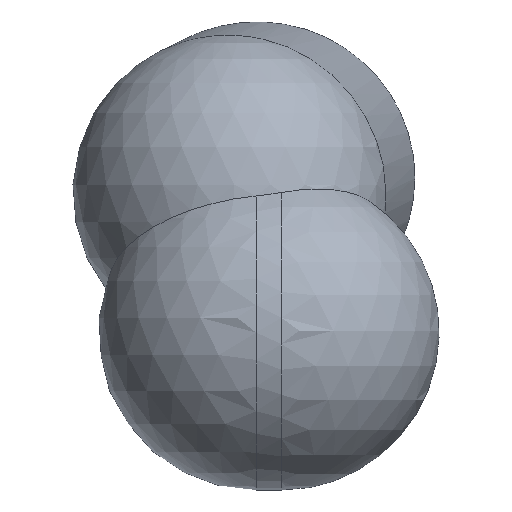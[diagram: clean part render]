
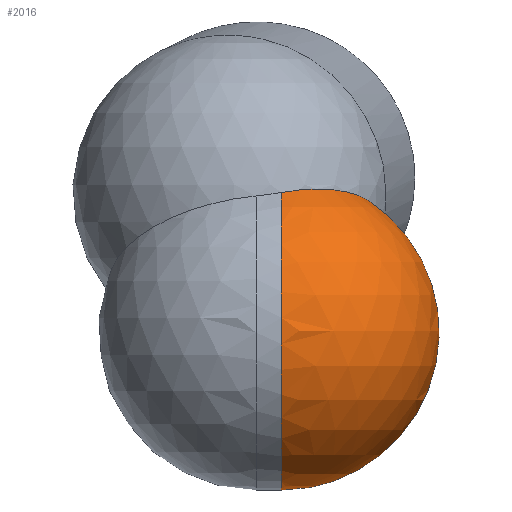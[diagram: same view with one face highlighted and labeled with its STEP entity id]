
A CAD part, front view. The second image highlights one B-rep face of the part: STEP entity #2016.
In plain terms, the highlighted spherical face has radius 62 mm.
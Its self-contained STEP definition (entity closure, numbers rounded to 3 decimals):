
#129 = SPHERICAL_SURFACE('',#130,62.);
#130 = AXIS2_PLACEMENT_3D('',#131,#132,#133);
#131 = CARTESIAN_POINT('',(-170.,30.,55.));
#132 = DIRECTION('',(0.,0.,1.));
#133 = DIRECTION('',(1.,0.,-0.));
#266 = SPHERICAL_SURFACE('',#267,62.);
#267 = AXIS2_PLACEMENT_3D('',#268,#269,#270);
#268 = CARTESIAN_POINT('',(-149.9,0.,0.));
#269 = DIRECTION('',(0.,0.,1.));
#270 = DIRECTION('',(1.,0.,-0.));
#1015 = VERTEX_POINT('',#1016);
#1016 = CARTESIAN_POINT('',(-149.9,-28.651,
    54.983));
#1036 = CYLINDRICAL_SURFACE('',#1037,62.);
#1037 = AXIS2_PLACEMENT_3D('',#1038,#1039,#1040);
#1038 = CARTESIAN_POINT('',(-149.9,0.,0.));
#1039 = DIRECTION('',(-1.,0.,0.));
#1040 = DIRECTION('',(0.,0.,-1.));
#1051 = EDGE_CURVE('',#1052,#1015,#1054,.T.);
#1052 = VERTEX_POINT('',#1053);
#1053 = CARTESIAN_POINT('',(-115.836,0.,
    51.804));
#1054 = SURFACE_CURVE('',#1055,(#1060,#1078),.PCURVE_S1.);
#1055 = CIRCLE('',#1056,52.552);
#1056 = AXIS2_PLACEMENT_3D('',#1057,#1058,#1059);
#1057 = CARTESIAN_POINT('',(-159.95,15.,27.5));
#1058 = DIRECTION('',(0.305,-0.456,-0.836));
#1059 = DIRECTION('',(0.,0.878,-0.479)
  );
#1060 = PCURVE('',#129,#1061);
#1061 = DEFINITIONAL_REPRESENTATION('',(#1062),#1077);
#1062 = B_SPLINE_CURVE_WITH_KNOTS('',7,(#1063,#1064,#1065,#1066,#1067,
    #1068,#1069,#1070,#1071,#1072,#1073,#1074,#1075,#1076),
  .UNSPECIFIED.,.F.,.F.,(8,6,8),(2.062,2.501,
    2.939),.UNSPECIFIED.);
#1063 = CARTESIAN_POINT('',(5.777,-0.052));
#1064 = CARTESIAN_POINT('',(5.727,-0.036));
#1065 = CARTESIAN_POINT('',(5.675,-0.022));
#1066 = CARTESIAN_POINT('',(5.624,-0.01));
#1067 = CARTESIAN_POINT('',(5.571,0.));
#1068 = CARTESIAN_POINT('',(5.519,0.008));
#1069 = CARTESIAN_POINT('',(5.466,0.014));
#1070 = CARTESIAN_POINT('',(5.36,0.022));
#1071 = CARTESIAN_POINT('',(5.307,0.023));
#1072 = CARTESIAN_POINT('',(5.254,0.023));
#1073 = CARTESIAN_POINT('',(5.201,0.02));
#1074 = CARTESIAN_POINT('',(5.148,0.015));
#1075 = CARTESIAN_POINT('',(5.095,0.009));
#1076 = CARTESIAN_POINT('',(5.043,0.));
#1077 = ( GEOMETRIC_REPRESENTATION_CONTEXT(2) 
PARAMETRIC_REPRESENTATION_CONTEXT() REPRESENTATION_CONTEXT('2D SPACE',''
  ) );
#1078 = PCURVE('',#1079,#1084);
#1079 = SPHERICAL_SURFACE('',#1080,62.);
#1080 = AXIS2_PLACEMENT_3D('',#1081,#1082,#1083);
#1081 = CARTESIAN_POINT('',(-149.9,0.,0.));
#1082 = DIRECTION('',(0.,0.,1.));
#1083 = DIRECTION('',(1.,0.,-0.));
#1084 = DEFINITIONAL_REPRESENTATION('',(#1085),#1116);
#1085 = B_SPLINE_CURVE_WITH_KNOTS('',8,(#1086,#1087,#1088,#1089,#1090,
    #1091,#1092,#1093,#1094,#1095,#1096,#1097,#1098,#1099,#1100,#1101,
    #1102,#1103,#1104,#1105,#1106,#1107,#1108,#1109,#1110,#1111,#1112,
    #1113,#1114,#1115),.UNSPECIFIED.,.F.,.F.,(9,7,7,7,9),(2.062,
    2.282,2.446,2.693,2.939),
  .UNSPECIFIED.);
#1086 = CARTESIAN_POINT('',(6.283,0.989));
#1087 = CARTESIAN_POINT('',(6.248,1.002));
#1088 = CARTESIAN_POINT('',(6.211,1.014));
#1089 = CARTESIAN_POINT('',(6.173,1.026));
#1090 = CARTESIAN_POINT('',(6.133,1.037));
#1091 = CARTESIAN_POINT('',(6.093,1.048));
#1092 = CARTESIAN_POINT('',(6.05,1.058));
#1093 = CARTESIAN_POINT('',(6.007,1.068));
#1094 = CARTESIAN_POINT('',(5.928,1.084));
#1095 = CARTESIAN_POINT('',(5.894,1.091));
#1096 = CARTESIAN_POINT('',(5.858,1.097));
#1097 = CARTESIAN_POINT('',(5.822,1.103));
#1098 = CARTESIAN_POINT('',(5.785,1.108));
#1099 = CARTESIAN_POINT('',(5.747,1.113));
#1100 = CARTESIAN_POINT('',(5.709,1.118));
#1101 = CARTESIAN_POINT('',(5.611,1.128));
#1102 = CARTESIAN_POINT('',(5.551,1.133));
#1103 = CARTESIAN_POINT('',(5.49,1.137));
#1104 = CARTESIAN_POINT('',(5.428,1.139));
#1105 = CARTESIAN_POINT('',(5.365,1.141));
#1106 = CARTESIAN_POINT('',(5.303,1.141));
#1107 = CARTESIAN_POINT('',(5.24,1.14));
#1108 = CARTESIAN_POINT('',(5.116,1.136));
#1109 = CARTESIAN_POINT('',(5.054,1.133));
#1110 = CARTESIAN_POINT('',(4.993,1.128));
#1111 = CARTESIAN_POINT('',(4.934,1.123));
#1112 = CARTESIAN_POINT('',(4.876,1.116));
#1113 = CARTESIAN_POINT('',(4.82,1.108));
#1114 = CARTESIAN_POINT('',(4.765,1.1));
#1115 = CARTESIAN_POINT('',(4.712,1.09));
#1116 = ( GEOMETRIC_REPRESENTATION_CONTEXT(2) 
PARAMETRIC_REPRESENTATION_CONTEXT() REPRESENTATION_CONTEXT('2D SPACE',''
  ) );
#1213 = VERTEX_POINT('',#1214);
#1214 = CARTESIAN_POINT('',(-149.9,0.,-62.));
#1264 = EDGE_CURVE('',#1213,#1052,#1265,.T.);
#1265 = SURFACE_CURVE('',#1266,(#1271,#1278),.PCURVE_S1.);
#1266 = CIRCLE('',#1267,62.);
#1267 = AXIS2_PLACEMENT_3D('',#1268,#1269,#1270);
#1268 = CARTESIAN_POINT('',(-149.9,0.,0.));
#1269 = DIRECTION('',(0.,-1.,0.));
#1270 = DIRECTION('',(1.,0.,0.));
#1271 = PCURVE('',#266,#1272);
#1272 = DEFINITIONAL_REPRESENTATION('',(#1273),#1277);
#1273 = LINE('',#1274,#1275);
#1274 = CARTESIAN_POINT('',(0.,-6.283));
#1275 = VECTOR('',#1276,1.);
#1276 = DIRECTION('',(0.,1.));
#1277 = ( GEOMETRIC_REPRESENTATION_CONTEXT(2) 
PARAMETRIC_REPRESENTATION_CONTEXT() REPRESENTATION_CONTEXT('2D SPACE',''
  ) );
#1278 = PCURVE('',#1079,#1279);
#1279 = DEFINITIONAL_REPRESENTATION('',(#1280),#1284);
#1280 = LINE('',#1281,#1282);
#1281 = CARTESIAN_POINT('',(6.283,-6.283));
#1282 = VECTOR('',#1283,1.);
#1283 = DIRECTION('',(0.,1.));
#1284 = ( GEOMETRIC_REPRESENTATION_CONTEXT(2) 
PARAMETRIC_REPRESENTATION_CONTEXT() REPRESENTATION_CONTEXT('2D SPACE',''
  ) );
#2016 = ADVANCED_FACE('',(#2017),#1079,.T.);
#2017 = FACE_BOUND('',#2018,.T.);
#2018 = EDGE_LOOP('',(#2019,#2020,#2021));
#2019 = ORIENTED_EDGE('',*,*,#1264,.T.);
#2020 = ORIENTED_EDGE('',*,*,#1051,.T.);
#2021 = ORIENTED_EDGE('',*,*,#2022,.F.);
#2022 = EDGE_CURVE('',#1213,#1015,#2023,.T.);
#2023 = SURFACE_CURVE('',#2024,(#2029,#2036),.PCURVE_S1.);
#2024 = CIRCLE('',#2025,62.);
#2025 = AXIS2_PLACEMENT_3D('',#2026,#2027,#2028);
#2026 = CARTESIAN_POINT('',(-149.9,0.,0.));
#2027 = DIRECTION('',(-1.,0.,0.));
#2028 = DIRECTION('',(0.,0.,-1.));
#2029 = PCURVE('',#1079,#2030);
#2030 = DEFINITIONAL_REPRESENTATION('',(#2031),#2035);
#2031 = LINE('',#2032,#2033);
#2032 = CARTESIAN_POINT('',(4.712,-1.571));
#2033 = VECTOR('',#2034,1.);
#2034 = DIRECTION('',(0.,1.));
#2035 = ( GEOMETRIC_REPRESENTATION_CONTEXT(2) 
PARAMETRIC_REPRESENTATION_CONTEXT() REPRESENTATION_CONTEXT('2D SPACE',''
  ) );
#2036 = PCURVE('',#1036,#2037);
#2037 = DEFINITIONAL_REPRESENTATION('',(#2038),#2042);
#2038 = LINE('',#2039,#2040);
#2039 = CARTESIAN_POINT('',(0.,0.));
#2040 = VECTOR('',#2041,1.);
#2041 = DIRECTION('',(1.,0.));
#2042 = ( GEOMETRIC_REPRESENTATION_CONTEXT(2) 
PARAMETRIC_REPRESENTATION_CONTEXT() REPRESENTATION_CONTEXT('2D SPACE',''
  ) );
